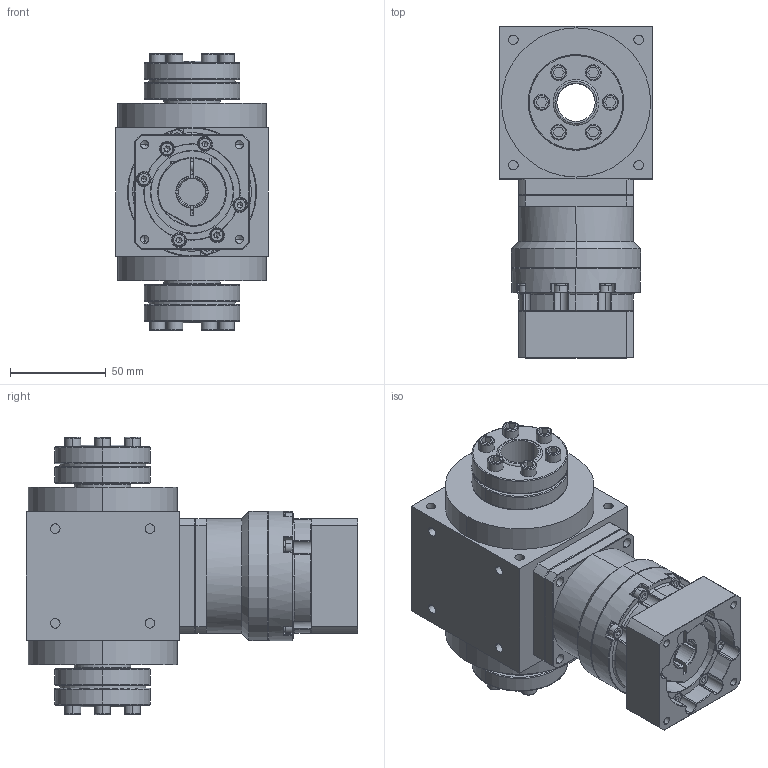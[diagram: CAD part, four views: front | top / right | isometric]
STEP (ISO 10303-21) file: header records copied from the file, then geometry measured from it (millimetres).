
FILE_DESCRIPTION (( 'STEP AP203' ), '1' );
FILE_NAME ('AAW080AS-L1-2HP 14-50-70-M5.STEP', '2024-12-23T08:51:35', ( '' ), ( '' ), 'SwSTEP 2.0', 'SolidWorks 2021', '' );
FILE_SCHEMA (( 'CONFIG_CONTROL_DESIGN' ));
Length unit declared in the file: millimetre
Products named in the file (3): AAW080AS-L1-2HP 14-50-70-M5; VRB-060-L1-S2-P1 14-50-70-M5; AAW080AS-2HP
Assembly tree (2 placements, depth 2):
  AAW080AS-L1-2HP 14-50-70-M5
    AAW080AS-2HP
    VRB-060-L1-S2-P1 14-50-70-M5
Bounding box: 80 x 173.5 x 145 mm (x, y, z)
Volume: 832147 mm3; surface area: 130882.6 mm2
Topology: 32 solids, 32 shells, 1218 faces, 2923 edges, 1815 vertices
Faces by surface type: plane 510, cylinder 402, cone 196, bspline 60, torus 50
Entity records: 36606 total; most frequent: CARTESIAN_POINT 8050, DIRECTION 6164, ORIENTED_EDGE 5734, EDGE_CURVE 2867, AXIS2_PLACEMENT_3D 2410, VERTEX_POINT 1815, EDGE_LOOP 1364, LINE 1344
